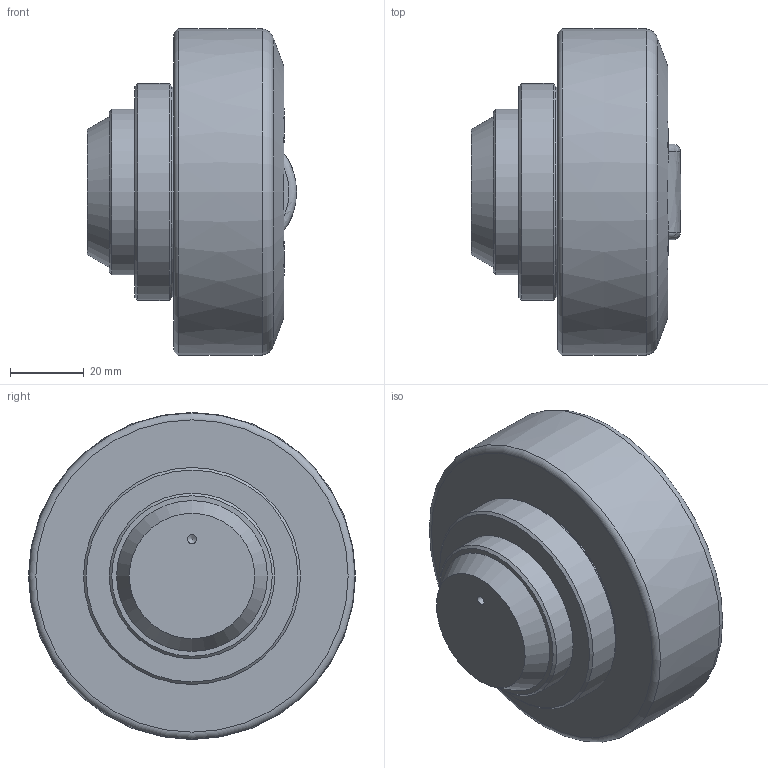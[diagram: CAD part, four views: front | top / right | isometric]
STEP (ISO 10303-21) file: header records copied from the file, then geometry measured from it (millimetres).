
FILE_DESCRIPTION(/* description */ (''),/* implementation_level */ '2;1');
FILE_NAME(/* name */ 'C:\Users\gabriele oddo\Desktop\400-0235.STEP',/* time_stamp */ '2023-07-27T12:05:32+02:00',/* author */ ('gabriele oddo'),/* organization */ (''),/* preprocessor_version */ 'ST-DEVELOPER v19',/* originating_system */ 'Autodesk Inventor 2023',/* authorisation */ '');
FILE_SCHEMA (('AUTOMOTIVE_DESIGN { 1 0 10303 214 3 1 1 }'));
Length unit declared in the file: millimetre
Products named in the file (1): 400-0235
Bounding box: 57 x 88.89 x 88.89 mm (x, y, z)
Volume: 227723.3 mm3; surface area: 23177.6 mm2
Topology: 1 solids, 1 shells, 60 faces, 132 edges, 87 vertices
Faces by surface type: plane 40, cylinder 8, cone 6, torus 4, bspline 2
Full cylindrical faces by diameter (mm): 2.5 x1, 9.1 x4, 45 x1, 57 x1, 59 x1
Entity records: 1807 total; most frequent: CARTESIAN_POINT 359, DIRECTION 280, ORIENTED_EDGE 262, EDGE_CURVE 131, AXIS2_PLACEMENT_3D 96, LINE 88, VECTOR 88, VERTEX_POINT 87
